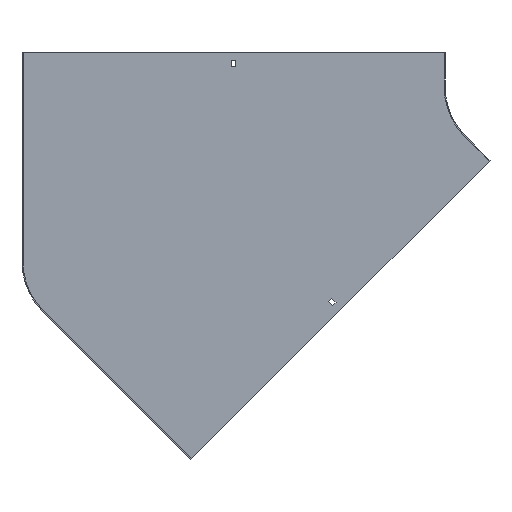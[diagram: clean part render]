
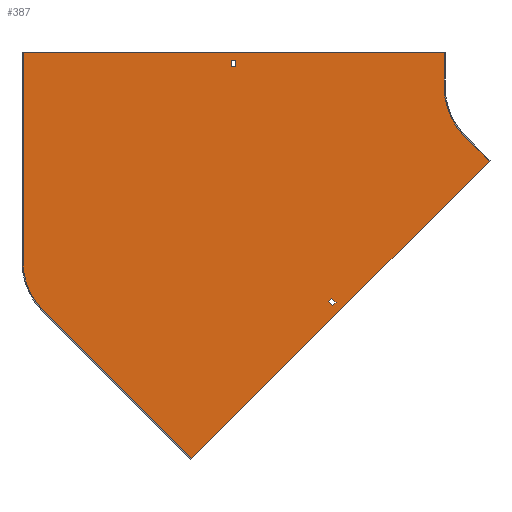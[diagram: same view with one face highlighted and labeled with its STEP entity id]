
A CAD part, front view. The second image highlights one B-rep face of the part: STEP entity #387.
In plain terms, the highlighted planar face has unit normal (0, -1, 0).
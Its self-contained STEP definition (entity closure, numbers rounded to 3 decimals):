
#9 = CARTESIAN_POINT ( 'NONE',  ( -405.25, -1.5, 0. ) ) ;
#11 = VECTOR ( 'NONE', #712, 1000. ) ;
#12 = VECTOR ( 'NONE', #708, 1000. ) ;
#13 = ORIENTED_EDGE ( 'NONE', *, *, #432, .T. ) ;
#24 = ORIENTED_EDGE ( 'NONE', *, *, #755, .F. ) ;
#40 = CARTESIAN_POINT ( 'NONE',  ( -70.711, -1.5, -70.711 ) ) ;
#42 = EDGE_CURVE ( 'NONE', #241, #531, #429, .T. ) ;
#62 = CARTESIAN_POINT ( 'NONE',  ( -100., -1.5, 50. ) ) ;
#64 = VERTEX_POINT ( 'NONE', #640 ) ;
#66 = LINE ( 'NONE', #62, #705 ) ;
#70 = VECTOR ( 'NONE', #125, 1000. ) ;
#78 = DIRECTION ( 'NONE',  ( 0., 0., -1. ) ) ;
#85 = ORIENTED_EDGE ( 'NONE', *, *, #633, .T. ) ;
#89 = CARTESIAN_POINT ( 'NONE',  ( -398.75, -1.5, 0. ) ) ;
#93 = VERTEX_POINT ( 'NONE', #382 ) ;
#109 = EDGE_CURVE ( 'NONE', #740, #234, #230, .T. ) ;
#114 = LINE ( 'NONE', #463, #115 ) ;
#115 = VECTOR ( 'NONE', #527, 1000. ) ;
#121 = EDGE_CURVE ( 'NONE', #608, #293, #766, .T. ) ;
#123 = CARTESIAN_POINT ( 'NONE',  ( -35.355, -1.5, -106.066 ) ) ;
#124 = DIRECTION ( 'NONE',  ( 0., 0., -1. ) ) ;
#125 = DIRECTION ( 'NONE',  ( -0.707, 0., -0.707 ) ) ;
#127 = VECTOR ( 'NONE', #499, 1000. ) ;
#135 = CARTESIAN_POINT ( 'NONE',  ( -398.75, -1.5, 38. ) ) ;
#138 = ORIENTED_EDGE ( 'NONE', *, *, #771, .F. ) ;
#141 = DIRECTION ( 'NONE',  ( 0., 0., 1. ) ) ;
#142 = AXIS2_PLACEMENT_3D ( 'NONE', #491, #418, #863 ) ;
#143 = CIRCLE ( 'NONE', #823, 100. ) ;
#148 = EDGE_CURVE ( 'NONE', #551, #274, #459, .T. ) ;
#151 = FACE_OUTER_BOUND ( 'NONE', #356, .T. ) ;
#153 = VECTOR ( 'NONE', #328, 1000. ) ;
#159 = DIRECTION ( 'NONE',  ( 0.707, 0., -0.707 ) ) ;
#172 = CARTESIAN_POINT ( 'NONE',  ( -34.295, -1.5, -105.005 ) ) ;
#173 = ORIENTED_EDGE ( 'NONE', *, *, #602, .F. ) ;
#178 = EDGE_CURVE ( 'NONE', #276, #443, #854, .T. ) ;
#187 = CARTESIAN_POINT ( 'NONE',  ( -704., -1.5, 50. ) ) ;
#192 = VECTOR ( 'NONE', #362, 1000. ) ;
#195 = EDGE_CURVE ( 'NONE', #531, #740, #407, .T. ) ;
#196 = DIRECTION ( 'NONE',  ( -0.707, 0., 0.707 ) ) ;
#197 = CARTESIAN_POINT ( 'NONE',  ( 0., -1.5, 0. ) ) ;
#200 = LINE ( 'NONE', #664, #70 ) ;
#206 = ORIENTED_EDGE ( 'NONE', *, *, #195, .F. ) ;
#209 = VERTEX_POINT ( 'NONE', #603 ) ;
#219 = VERTEX_POINT ( 'NONE', #728 ) ;
#225 = DIRECTION ( 'NONE',  ( 1., 0., 0. ) ) ;
#230 = LINE ( 'NONE', #504, #127 ) ;
#233 = LINE ( 'NONE', #89, #284 ) ;
#234 = VERTEX_POINT ( 'NONE', #187 ) ;
#241 = VERTEX_POINT ( 'NONE', #662 ) ;
#252 = ORIENTED_EDGE ( 'NONE', *, *, #121, .F. ) ;
#261 = DIRECTION ( 'NONE',  ( 0., 0., -1. ) ) ;
#265 = CARTESIAN_POINT ( 'NONE',  ( -261.453, -1.5, -302.465 ) ) ;
#270 = VECTOR ( 'NONE', #225, 1000. ) ;
#274 = VERTEX_POINT ( 'NONE', #265 ) ;
#276 = VERTEX_POINT ( 'NONE', #669 ) ;
#279 = EDGE_CURVE ( 'NONE', #93, #209, #594, .T. ) ;
#284 = VECTOR ( 'NONE', #497, 1000. ) ;
#285 = PLANE ( 'NONE',  #142 ) ;
#292 = CARTESIAN_POINT ( 'NONE',  ( -674.711, -1.5, -320.896 ) ) ;
#293 = VERTEX_POINT ( 'NONE', #123 ) ;
#324 = CARTESIAN_POINT ( 'NONE',  ( -281.959, -1.5, -281.959 ) ) ;
#328 = DIRECTION ( 'NONE',  ( -1., 0., 0. ) ) ;
#333 = DIRECTION ( 'NONE',  ( 0., 1., 0. ) ) ;
#345 = ORIENTED_EDGE ( 'NONE', *, *, #148, .F. ) ;
#348 = FACE_BOUND ( 'NONE', #696, .T. ) ;
#356 = EDGE_LOOP ( 'NONE', ( #173, #837, #206, #379, #610, #252, #435, #824 ) ) ;
#360 = VERTEX_POINT ( 'NONE', #135 ) ;
#361 = CARTESIAN_POINT ( 'NONE',  ( -70.711, -1.5, -70.711 ) ) ;
#362 = DIRECTION ( 'NONE',  ( 1., 0., 0. ) ) ;
#372 = CARTESIAN_POINT ( 'NONE',  ( -462.448, -1.5, -533.159 ) ) ;
#379 = ORIENTED_EDGE ( 'NONE', *, *, #42, .F. ) ;
#382 = CARTESIAN_POINT ( 'NONE',  ( -266.049, -1.5, -307.061 ) ) ;
#387 = ADVANCED_FACE ( 'NONE', ( #348, #151, #751 ), #285, .T. ) ;
#393 = DIRECTION ( 'NONE',  ( 0.707, 0., -0.707 ) ) ;
#397 = EDGE_CURVE ( 'NONE', #443, #219, #619, .T. ) ;
#400 = ORIENTED_EDGE ( 'NONE', *, *, #178, .T. ) ;
#407 = CIRCLE ( 'NONE', #742, 100. ) ;
#418 = DIRECTION ( 'NONE',  ( 0., -1., 0. ) ) ;
#429 = LINE ( 'NONE', #372, #11 ) ;
#432 = EDGE_CURVE ( 'NONE', #219, #360, #810, .T. ) ;
#434 = LINE ( 'NONE', #650, #192 ) ;
#435 = ORIENTED_EDGE ( 'NONE', *, *, #815, .F. ) ;
#436 = CARTESIAN_POINT ( 'NONE',  ( -704., -1.5, -250.185 ) ) ;
#443 = VERTEX_POINT ( 'NONE', #687 ) ;
#459 = LINE ( 'NONE', #324, #861 ) ;
#463 = CARTESIAN_POINT ( 'NONE',  ( 26.87, -1.5, -26.87 ) ) ;
#468 = CARTESIAN_POINT ( 'NONE',  ( -286.555, -1.5, -286.555 ) ) ;
#470 = CARTESIAN_POINT ( 'NONE',  ( 0., -1.5, 29. ) ) ;
#491 = CARTESIAN_POINT ( 'NONE',  ( 0., -1.5, 0. ) ) ;
#497 = DIRECTION ( 'NONE',  ( 0., 0., -1. ) ) ;
#499 = DIRECTION ( 'NONE',  ( 0., 0., 1. ) ) ;
#504 = CARTESIAN_POINT ( 'NONE',  ( -704., -1.5, -250.185 ) ) ;
#519 = EDGE_CURVE ( 'NONE', #293, #241, #645, .T. ) ;
#527 = DIRECTION ( 'NONE',  ( 0.707, 0., 0.707 ) ) ;
#531 = VERTEX_POINT ( 'NONE', #292 ) ;
#548 = ORIENTED_EDGE ( 'NONE', *, *, #397, .T. ) ;
#551 = VERTEX_POINT ( 'NONE', #773 ) ;
#554 = VECTOR ( 'NONE', #393, 1000. ) ;
#559 = CARTESIAN_POINT ( 'NONE',  ( 0., -1.5, 38. ) ) ;
#593 = DIRECTION ( 'NONE',  ( 0., -1., 0. ) ) ;
#594 = LINE ( 'NONE', #468, #554 ) ;
#602 = EDGE_CURVE ( 'NONE', #234, #64, #434, .T. ) ;
#603 = CARTESIAN_POINT ( 'NONE',  ( -259.685, -1.5, -313.425 ) ) ;
#608 = VERTEX_POINT ( 'NONE', #40 ) ;
#610 = ORIENTED_EDGE ( 'NONE', *, *, #519, .F. ) ;
#619 = LINE ( 'NONE', #9, #636 ) ;
#633 = EDGE_CURVE ( 'NONE', #360, #276, #233, .T. ) ;
#636 = VECTOR ( 'NONE', #141, 1000. ) ;
#640 = CARTESIAN_POINT ( 'NONE',  ( -100., -1.5, 50. ) ) ;
#645 = LINE ( 'NONE', #172, #12 ) ;
#650 = CARTESIAN_POINT ( 'NONE',  ( -705.5, -1.5, 50. ) ) ;
#662 = CARTESIAN_POINT ( 'NONE',  ( -462.448, -1.5, -533.159 ) ) ;
#664 = CARTESIAN_POINT ( 'NONE',  ( 20.506, -1.5, -20.506 ) ) ;
#669 = CARTESIAN_POINT ( 'NONE',  ( -398.75, -1.5, 29. ) ) ;
#677 = VERTEX_POINT ( 'NONE', #693 ) ;
#687 = CARTESIAN_POINT ( 'NONE',  ( -405.25, -1.5, 29. ) ) ;
#693 = CARTESIAN_POINT ( 'NONE',  ( -100., -1.5, 0. ) ) ;
#696 = EDGE_LOOP ( 'NONE', ( #345, #24, #862, #138 ) ) ;
#705 = VECTOR ( 'NONE', #78, 1000. ) ;
#708 = DIRECTION ( 'NONE',  ( -0.707, 0., -0.707 ) ) ;
#712 = DIRECTION ( 'NONE',  ( -0.707, 0., 0.707 ) ) ;
#728 = CARTESIAN_POINT ( 'NONE',  ( -405.25, -1.5, 38. ) ) ;
#740 = VERTEX_POINT ( 'NONE', #436 ) ;
#742 = AXIS2_PLACEMENT_3D ( 'NONE', #800, #333, #124 ) ;
#751 = FACE_BOUND ( 'NONE', #834, .T. ) ;
#755 = EDGE_CURVE ( 'NONE', #209, #551, #114, .T. ) ;
#766 = LINE ( 'NONE', #361, #811 ) ;
#771 = EDGE_CURVE ( 'NONE', #274, #93, #200, .T. ) ;
#773 = CARTESIAN_POINT ( 'NONE',  ( -255.089, -1.5, -308.829 ) ) ;
#800 = CARTESIAN_POINT ( 'NONE',  ( -604., -1.5, -250.185 ) ) ;
#810 = LINE ( 'NONE', #559, #270 ) ;
#811 = VECTOR ( 'NONE', #159, 1000. ) ;
#815 = EDGE_CURVE ( 'NONE', #677, #608, #143, .T. ) ;
#823 = AXIS2_PLACEMENT_3D ( 'NONE', #197, #593, #261 ) ;
#824 = ORIENTED_EDGE ( 'NONE', *, *, #848, .F. ) ;
#834 = EDGE_LOOP ( 'NONE', ( #13, #85, #400, #548 ) ) ;
#837 = ORIENTED_EDGE ( 'NONE', *, *, #109, .F. ) ;
#848 = EDGE_CURVE ( 'NONE', #64, #677, #66, .T. ) ;
#854 = LINE ( 'NONE', #470, #153 ) ;
#861 = VECTOR ( 'NONE', #196, 1000. ) ;
#862 = ORIENTED_EDGE ( 'NONE', *, *, #279, .F. ) ;
#863 = DIRECTION ( 'NONE',  ( 0., 0., -1. ) ) ;
